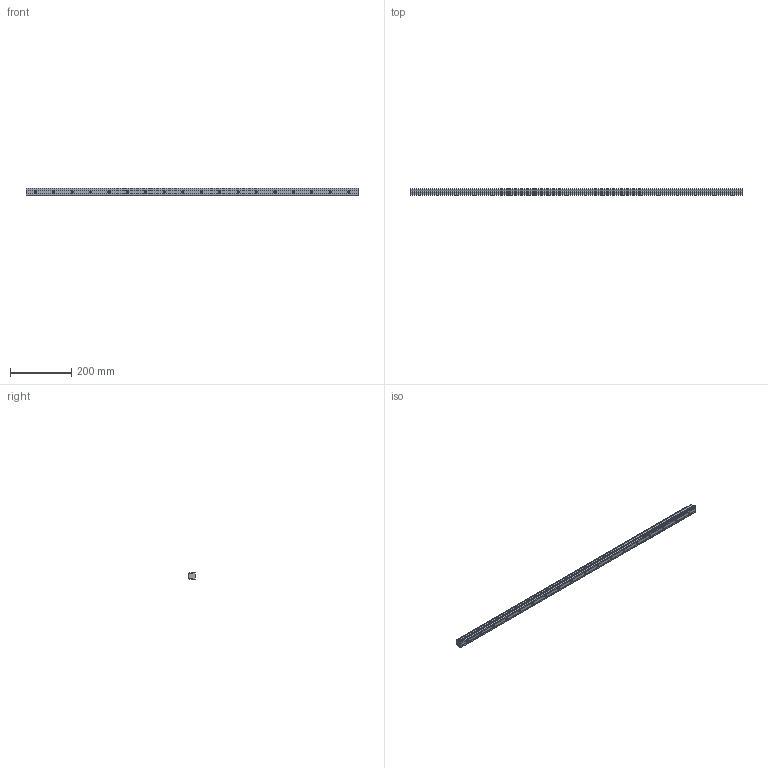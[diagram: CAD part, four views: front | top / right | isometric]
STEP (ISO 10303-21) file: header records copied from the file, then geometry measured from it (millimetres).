
FILE_DESCRIPTION (( 'STEP AP203' ), '1' );
FILE_NAME ('L1018.25R-1080.step', '2023-08-06T10:35:40', ( '' ), ( '' ), 'SwSTEP 2.0', 'SolidWorks 2019', '' );
FILE_SCHEMA (( 'CONFIG_CONTROL_DESIGN' ));
Length unit declared in the file: millimetre
Products named in the file (1): L1018.25R-1080
Bounding box: 1080 x 21.8 x 25 mm (x, y, z)
Volume: 449159.2 mm3; surface area: 108089 mm2
Topology: 1 solids, 1 shells, 191 faces, 441 edges, 252 vertices
Faces by surface type: cylinder 75, cone 72, plane 44
Entity records: 5210 total; most frequent: DIRECTION 975, CARTESIAN_POINT 849, ORIENTED_EDGE 810, EDGE_CURVE 405, AXIS2_PLACEMENT_3D 378, VERTEX_POINT 252, EDGE_LOOP 227, LINE 219
